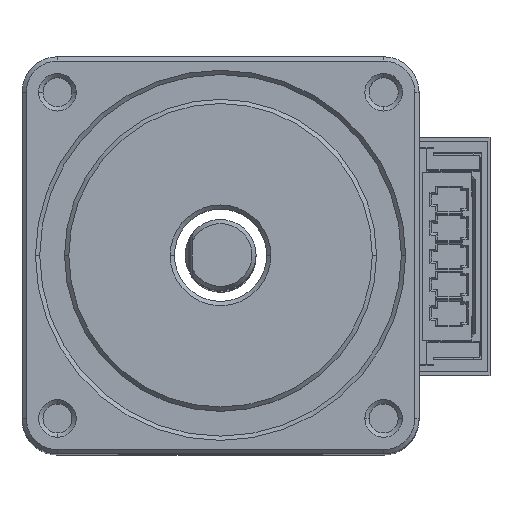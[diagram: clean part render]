
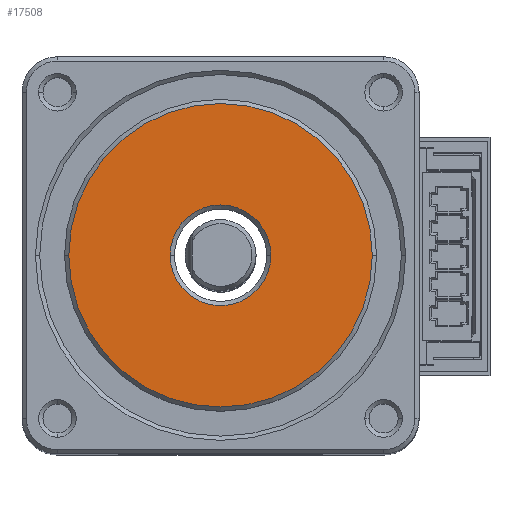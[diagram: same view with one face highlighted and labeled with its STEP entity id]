
A CAD part, top view. The second image highlights one B-rep face of the part: STEP entity #17508.
In plain terms, the highlighted planar face has unit normal (0, 0, 1).
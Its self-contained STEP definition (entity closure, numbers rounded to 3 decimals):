
#3615=CARTESIAN_POINT('',(0.,0.,10.));
#3616=DIRECTION('',(0.,0.,1.));
#3617=DIRECTION('',(-1.,0.,0.));
#3618=AXIS2_PLACEMENT_3D('',#3615,#3616,#3617);
#3620=CARTESIAN_POINT('',(0.,0.,10.));
#3621=DIRECTION('',(0.,0.,1.));
#3622=DIRECTION('',(1.,0.,0.));
#3623=AXIS2_PLACEMENT_3D('',#3620,#3621,#3622);
#3625=CARTESIAN_POINT('',(0.,0.,10.));
#3626=DIRECTION('',(0.,0.,-1.));
#3627=DIRECTION('',(1.,0.,0.));
#3628=AXIS2_PLACEMENT_3D('',#3625,#3626,#3627);
#3630=CARTESIAN_POINT('',(0.,0.,10.));
#3631=DIRECTION('',(0.,0.,-1.));
#3632=DIRECTION('',(-1.,0.,0.));
#3633=AXIS2_PLACEMENT_3D('',#3630,#3631,#3632);
#9852=CARTESIAN_POINT('',(-10.7,0.,10.));
#9853=CARTESIAN_POINT('',(10.7,0.,10.));
#9854=VERTEX_POINT('',#9852);
#9855=VERTEX_POINT('',#9853);
#9860=CARTESIAN_POINT('',(3.55,0.,10.));
#9861=CARTESIAN_POINT('',(-3.55,0.,10.));
#9862=VERTEX_POINT('',#9860);
#9863=VERTEX_POINT('',#9861);
#17492=CARTESIAN_POINT('',(0.,0.,10.));
#17493=DIRECTION('',(0.,0.,1.));
#17494=DIRECTION('',(1.,0.,0.));
#17495=AXIS2_PLACEMENT_3D('',#17492,#17493,#17494);
#17496=PLANE('',#17495);
#17497=ORIENTED_EDGE('',*,*,#17482,.F.);
#17499=ORIENTED_EDGE('',*,*,#17498,.F.);
#17500=EDGE_LOOP('',(#17497,#17499));
#17501=FACE_OUTER_BOUND('',#17500,.F.);
#17503=ORIENTED_EDGE('',*,*,#17502,.F.);
#17505=ORIENTED_EDGE('',*,*,#17504,.F.);
#17506=EDGE_LOOP('',(#17503,#17505));
#17507=FACE_BOUND('',#17506,.F.);
#17508=ADVANCED_FACE('',(#17501,#17507),#17496,.T.);
#3619=CIRCLE('',#3618,10.7);
#3624=CIRCLE('',#3623,10.7);
#3629=CIRCLE('',#3628,3.55);
#3634=CIRCLE('',#3633,3.55);
#17482=EDGE_CURVE('',#9854,#9855,#3619,.T.);
#17498=EDGE_CURVE('',#9855,#9854,#3624,.T.);
#17502=EDGE_CURVE('',#9862,#9863,#3629,.T.);
#17504=EDGE_CURVE('',#9863,#9862,#3634,.T.);
